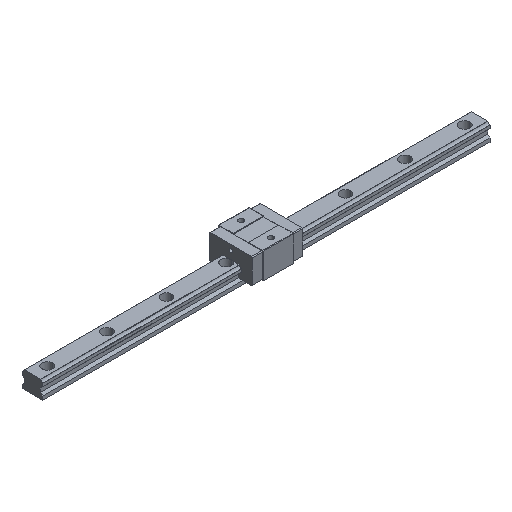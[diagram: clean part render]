
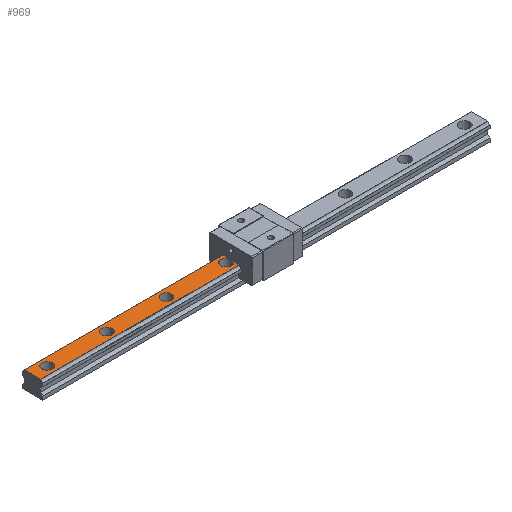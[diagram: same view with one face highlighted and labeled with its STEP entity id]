
A CAD part, isometric view. The second image highlights one B-rep face of the part: STEP entity #969.
In plain terms, the highlighted planar face has unit normal (0, 0, 1).
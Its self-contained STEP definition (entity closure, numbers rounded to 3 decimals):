
#7 = CARTESIAN_POINT ( 'NONE',  ( -280., 0., 23. ) ) ;
#31 = VECTOR ( 'NONE', #2824, 1000. ) ;
#71 = AXIS2_PLACEMENT_3D ( 'NONE', #2500, #2005, #2448 ) ;
#178 = ORIENTED_EDGE ( 'NONE', *, *, #2538, .T. ) ;
#258 = EDGE_CURVE ( 'NONE', #2729, #681, #1168, .T. ) ;
#286 = DIRECTION ( 'NONE',  ( 0., 0., -1. ) ) ;
#327 = CIRCLE ( 'NONE', #2336, 7. ) ;
#357 = ORIENTED_EDGE ( 'NONE', *, *, #4912, .T. ) ;
#377 = PLANE ( 'NONE',  #543 ) ;
#416 = ORIENTED_EDGE ( 'NONE', *, *, #1555, .F. ) ;
#534 = CARTESIAN_POINT ( 'NONE',  ( -40., 0., 23. ) ) ;
#542 = CARTESIAN_POINT ( 'NONE',  ( -200., 0., 23. ) ) ;
#543 = AXIS2_PLACEMENT_3D ( 'NONE', #3563, #2371, #5157 ) ;
#577 = VECTOR ( 'NONE', #902, 1000. ) ;
#644 = DIRECTION ( 'NONE',  ( -1., 0., 0. ) ) ;
#655 = EDGE_LOOP ( 'NONE', ( #966, #3851 ) ) ;
#665 = CARTESIAN_POINT ( 'NONE',  ( -33.7, 3.051, 23. ) ) ;
#672 = CARTESIAN_POINT ( 'NONE',  ( -33.7, -11.035, 23. ) ) ;
#681 = VERTEX_POINT ( 'NONE', #1397 ) ;
#721 = EDGE_CURVE ( 'NONE', #4830, #1455, #2910, .T. ) ;
#866 = AXIS2_PLACEMENT_3D ( 'NONE', #534, #3686, #4455 ) ;
#892 = EDGE_CURVE ( 'NONE', #2573, #3124, #3063, .T. ) ;
#902 = DIRECTION ( 'NONE',  ( 0., -1., 0. ) ) ;
#925 = DIRECTION ( 'NONE',  ( 0., 0., -1. ) ) ;
#948 = AXIS2_PLACEMENT_3D ( 'NONE', #981, #4589, #644 ) ;
#953 = AXIS2_PLACEMENT_3D ( 'NONE', #7, #286, #3462 ) ;
#966 = ORIENTED_EDGE ( 'NONE', *, *, #892, .T. ) ;
#969 = ADVANCED_FACE ( 'NONE', ( #1188, #2024, #1953, #1581 ), #377, .F. ) ;
#981 = CARTESIAN_POINT ( 'NONE',  ( -120., 0., 23. ) ) ;
#1088 = DIRECTION ( 'NONE',  ( -1., 0., 0. ) ) ;
#1140 = CARTESIAN_POINT ( 'NONE',  ( -300., 11.035, 23. ) ) ;
#1168 = CIRCLE ( 'NONE', #2511, 7. ) ;
#1188 = FACE_BOUND ( 'NONE', #5185, .T. ) ;
#1295 = DIRECTION ( 'NONE',  ( -1., 0., 0. ) ) ;
#1397 = CARTESIAN_POINT ( 'NONE',  ( -127., 0., 23. ) ) ;
#1399 = ORIENTED_EDGE ( 'NONE', *, *, #2912, .T. ) ;
#1455 = VERTEX_POINT ( 'NONE', #4539 ) ;
#1481 = EDGE_CURVE ( 'NONE', #2700, #5101, #327, .T. ) ;
#1540 = CIRCLE ( 'NONE', #948, 7. ) ;
#1555 = EDGE_CURVE ( 'NONE', #4028, #5101, #2744, .T. ) ;
#1581 = FACE_OUTER_BOUND ( 'NONE', #3506, .T. ) ;
#1708 = EDGE_CURVE ( 'NONE', #2125, #1936, #4768, .T. ) ;
#1783 = VECTOR ( 'NONE', #5068, 1000. ) ;
#1836 = CARTESIAN_POINT ( 'NONE',  ( -273., 0., 23. ) ) ;
#1928 = DIRECTION ( 'NONE',  ( 0., -1., 0. ) ) ;
#1936 = VERTEX_POINT ( 'NONE', #1836 ) ;
#1953 = FACE_BOUND ( 'NONE', #4419, .T. ) ;
#1994 = CARTESIAN_POINT ( 'NONE',  ( -113., 0., 23. ) ) ;
#2005 = DIRECTION ( 'NONE',  ( 0., 0., -1. ) ) ;
#2016 = VERTEX_POINT ( 'NONE', #4759 ) ;
#2024 = FACE_BOUND ( 'NONE', #655, .T. ) ;
#2028 = LINE ( 'NONE', #5060, #31 ) ;
#2040 = CIRCLE ( 'NONE', #866, 7. ) ;
#2125 = VERTEX_POINT ( 'NONE', #3251 ) ;
#2280 = CARTESIAN_POINT ( 'NONE',  ( -33.7, -16.774, 23. ) ) ;
#2288 = DIRECTION ( 'NONE',  ( -1., 0., 0. ) ) ;
#2336 = AXIS2_PLACEMENT_3D ( 'NONE', #2953, #925, #4612 ) ;
#2371 = DIRECTION ( 'NONE',  ( 0., 0., -1. ) ) ;
#2379 = CIRCLE ( 'NONE', #3878, 7. ) ;
#2414 = ORIENTED_EDGE ( 'NONE', *, *, #2955, .T. ) ;
#2448 = DIRECTION ( 'NONE',  ( -1., 0., 0. ) ) ;
#2500 = CARTESIAN_POINT ( 'NONE',  ( -280., 0., 23. ) ) ;
#2511 = AXIS2_PLACEMENT_3D ( 'NONE', #3208, #4892, #1295 ) ;
#2538 = EDGE_CURVE ( 'NONE', #2016, #2849, #2686, .T. ) ;
#2573 = VERTEX_POINT ( 'NONE', #3937 ) ;
#2686 = LINE ( 'NONE', #2280, #1783 ) ;
#2700 = VERTEX_POINT ( 'NONE', #4857 ) ;
#2729 = VERTEX_POINT ( 'NONE', #1994 ) ;
#2744 = LINE ( 'NONE', #672, #3177 ) ;
#2785 = CARTESIAN_POINT ( 'NONE',  ( 300., 11.035, 23. ) ) ;
#2824 = DIRECTION ( 'NONE',  ( 1., 0., 0. ) ) ;
#2849 = VERTEX_POINT ( 'NONE', #3822 ) ;
#2910 = LINE ( 'NONE', #4969, #577 ) ;
#2911 = DIRECTION ( 'NONE',  ( 0., 0., -1. ) ) ;
#2912 = EDGE_CURVE ( 'NONE', #1936, #2125, #4903, .T. ) ;
#2953 = CARTESIAN_POINT ( 'NONE',  ( -40., 0., 23. ) ) ;
#2955 = EDGE_CURVE ( 'NONE', #1455, #2016, #2028, .T. ) ;
#3062 = CARTESIAN_POINT ( 'NONE',  ( -200., 0., 23. ) ) ;
#3063 = CIRCLE ( 'NONE', #4741, 7. ) ;
#3124 = VERTEX_POINT ( 'NONE', #4485 ) ;
#3177 = VECTOR ( 'NONE', #1928, 1000. ) ;
#3208 = CARTESIAN_POINT ( 'NONE',  ( -120., 0., 23. ) ) ;
#3251 = CARTESIAN_POINT ( 'NONE',  ( -287., 0., 23. ) ) ;
#3278 = DIRECTION ( 'NONE',  ( -1., 0., 0. ) ) ;
#3279 = ORIENTED_EDGE ( 'NONE', *, *, #721, .T. ) ;
#3462 = DIRECTION ( 'NONE',  ( -1., 0., 0. ) ) ;
#3506 = EDGE_LOOP ( 'NONE', ( #2414, #178, #357, #4775, #416, #3926, #3279 ) ) ;
#3536 = DIRECTION ( 'NONE',  ( 0., 0., -1. ) ) ;
#3563 = CARTESIAN_POINT ( 'NONE',  ( 300., 0., 23. ) ) ;
#3686 = DIRECTION ( 'NONE',  ( 0., 0., -1. ) ) ;
#3822 = CARTESIAN_POINT ( 'NONE',  ( -33.7, -3.051, 23. ) ) ;
#3851 = ORIENTED_EDGE ( 'NONE', *, *, #4517, .T. ) ;
#3878 = AXIS2_PLACEMENT_3D ( 'NONE', #542, #2911, #3278 ) ;
#3926 = ORIENTED_EDGE ( 'NONE', *, *, #4054, .T. ) ;
#3937 = CARTESIAN_POINT ( 'NONE',  ( -193., 0., 23. ) ) ;
#4028 = VERTEX_POINT ( 'NONE', #4934 ) ;
#4054 = EDGE_CURVE ( 'NONE', #4028, #4830, #4394, .T. ) ;
#4362 = ORIENTED_EDGE ( 'NONE', *, *, #1708, .T. ) ;
#4394 = LINE ( 'NONE', #2785, #4557 ) ;
#4419 = EDGE_LOOP ( 'NONE', ( #1399, #4362 ) ) ;
#4455 = DIRECTION ( 'NONE',  ( -1., 0., 0. ) ) ;
#4485 = CARTESIAN_POINT ( 'NONE',  ( -207., 0., 23. ) ) ;
#4517 = EDGE_CURVE ( 'NONE', #3124, #2573, #2379, .T. ) ;
#4539 = CARTESIAN_POINT ( 'NONE',  ( -300., -11.035, 23. ) ) ;
#4557 = VECTOR ( 'NONE', #2288, 1000. ) ;
#4589 = DIRECTION ( 'NONE',  ( 0., 0., -1. ) ) ;
#4612 = DIRECTION ( 'NONE',  ( -1., 0., 0. ) ) ;
#4668 = EDGE_CURVE ( 'NONE', #681, #2729, #1540, .T. ) ;
#4719 = ORIENTED_EDGE ( 'NONE', *, *, #258, .T. ) ;
#4741 = AXIS2_PLACEMENT_3D ( 'NONE', #3062, #3536, #1088 ) ;
#4759 = CARTESIAN_POINT ( 'NONE',  ( -33.7, -11.035, 23. ) ) ;
#4768 = CIRCLE ( 'NONE', #71, 7. ) ;
#4775 = ORIENTED_EDGE ( 'NONE', *, *, #1481, .T. ) ;
#4830 = VERTEX_POINT ( 'NONE', #1140 ) ;
#4857 = CARTESIAN_POINT ( 'NONE',  ( -47., 0., 23. ) ) ;
#4892 = DIRECTION ( 'NONE',  ( 0., 0., -1. ) ) ;
#4903 = CIRCLE ( 'NONE', #953, 7. ) ;
#4912 = EDGE_CURVE ( 'NONE', #2849, #2700, #2040, .T. ) ;
#4934 = CARTESIAN_POINT ( 'NONE',  ( -33.7, 11.035, 23. ) ) ;
#4936 = ORIENTED_EDGE ( 'NONE', *, *, #4668, .T. ) ;
#4969 = CARTESIAN_POINT ( 'NONE',  ( -300., 0., 23. ) ) ;
#5060 = CARTESIAN_POINT ( 'NONE',  ( 300., -11.035, 23. ) ) ;
#5068 = DIRECTION ( 'NONE',  ( 0., 1., 0. ) ) ;
#5101 = VERTEX_POINT ( 'NONE', #665 ) ;
#5157 = DIRECTION ( 'NONE',  ( 0., -1., 0. ) ) ;
#5185 = EDGE_LOOP ( 'NONE', ( #4719, #4936 ) ) ;
